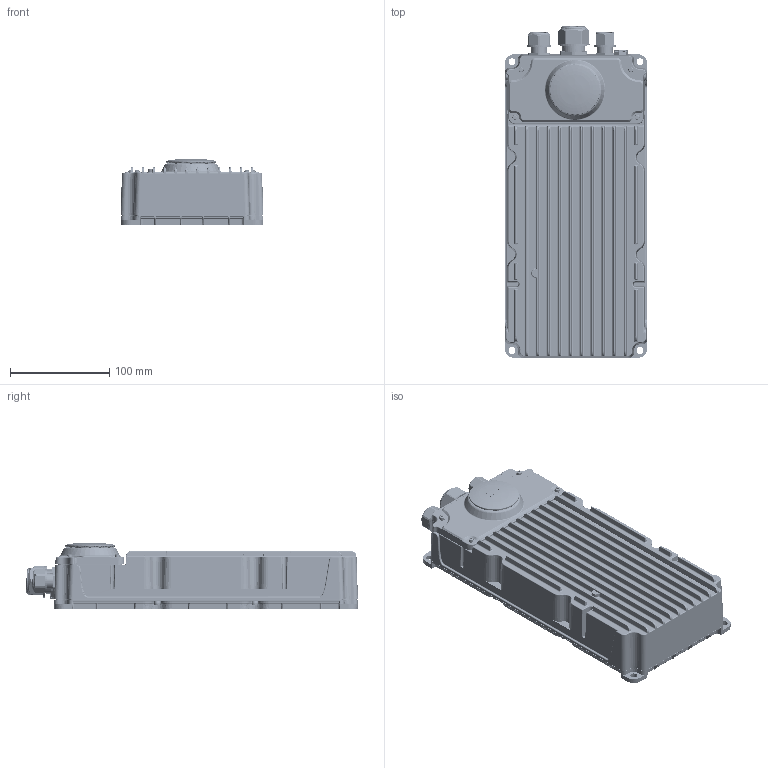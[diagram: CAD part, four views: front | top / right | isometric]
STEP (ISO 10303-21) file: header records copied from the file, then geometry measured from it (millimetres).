
FILE_DESCRIPTION(('Creo Elements/Direct Modeling STEP Export'),'2;1');
FILE_NAME('M108.stp','2025-08-06T13:16:03',(''),(''),'Creo Elements/Direct Modeling STEP processor for AP214 (Solid Model)','Creo Elements/Direct Modeling 20.7 06-Apr-2024 (C) Parametric Technology GmbH','');
FILE_SCHEMA(('AUTOMOTIVE_DESIGN { 1 0 10303 214 1 1 1 1 }'));
Products named in the file (27): casing_ top; QIFA-1.prt.1; QIFA-1.prt.2; QIFA-1.prt; casing top; casing bottom; terminal_cover; NFC casing; M30 nut; NFC; terminal cover; GLAND_PG21-01_2_1_1.PRT; GLAND_PG21-02_2_1_1.PRT; GLAND_PG21-03_2_1_1.PRT; GLAND_PG21-04_2_1_1.prt.1; GLAND_PG21-04_2_1_1.prt.2; GLAND_PG21-04_2_1_1.prt; GLAND_PG21-05_2_1_1.PRT; PG-9.PRT; M16-1.prt.1; M16-1.prt.2; M16-1.prt; cable glands; M3 screw 1; M4 screw 1; screws; M108
Assembly tree (36 placements, depth 4):
  M108
    screws
      M4 screw 1  x8
      M3 screw 1  x4
    cable glands
      M16-1.prt
        M16-1.prt.2
        M16-1.prt.1
      PG-9.PRT
      GLAND_PG21-05_2_1_1.PRT
      GLAND_PG21-04_2_1_1.prt
        GLAND_PG21-04_2_1_1.prt.2
        GLAND_PG21-04_2_1_1.prt.1
      GLAND_PG21-03_2_1_1.PRT
      GLAND_PG21-02_2_1_1.PRT
      GLAND_PG21-01_2_1_1.PRT
    terminal cover
      NFC
        M30 nut
        NFC casing
      terminal_cover
    casing bottom
    casing top
      QIFA-1.prt
        QIFA-1.prt.2
        QIFA-1.prt.1
      casing_ top
Bounding box: 144 x 334.34 x 67.2 mm (x, y, z)
Volume: 496581 mm3; surface area: 369260.3 mm2
Topology: 28 solids, 29 shells, 6202 faces, 15649 edges, 9255 vertices
Faces by surface type: cylinder 2071, plane 1584, bspline 1225, torus 566, cone 492, sphere 236, revolution 24, extrusion 4
Entity records: 225448 total; most frequent: CARTESIAN_POINT 101732, ORIENTED_EDGE 27950, DIRECTION 22958, EDGE_CURVE 13975, AXIS2_PLACEMENT_3D 8787, VERTEX_POINT 8413, EDGE_LOOP 5962, FACE_OUTER_BOUND 5744
